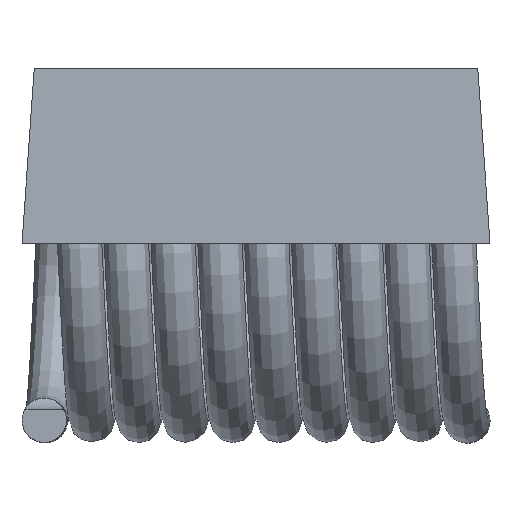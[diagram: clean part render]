
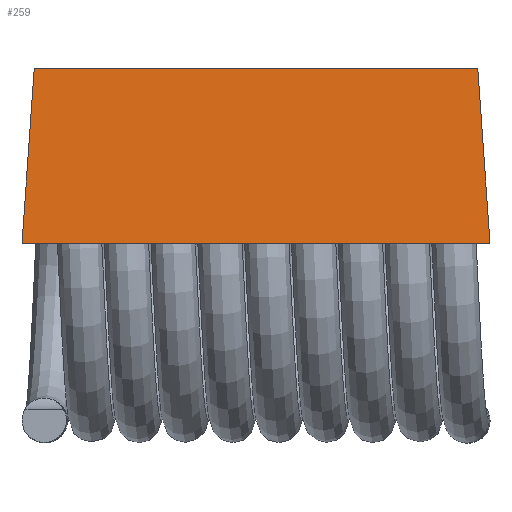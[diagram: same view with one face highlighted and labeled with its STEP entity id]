
A CAD part, top view. The second image highlights one B-rep face of the part: STEP entity #259.
In plain terms, the highlighted planar face has unit normal (0, 0.07, 0.998).
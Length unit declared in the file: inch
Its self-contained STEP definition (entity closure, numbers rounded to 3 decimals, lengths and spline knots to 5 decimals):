
#22 = PLANE ( 'NONE',  #4926 ) ;
#174 = VERTEX_POINT ( 'NONE', #4105 ) ;
#259 = ADVANCED_FACE ( 'NONE', ( #2900 ), #22, .T. ) ;
#328 = DIRECTION ( 'NONE',  ( -1., 0., 0. ) ) ;
#383 = VECTOR ( 'NONE', #3361, 39.37008 ) ;
#424 = CARTESIAN_POINT ( 'NONE',  ( -0.0045, 0.15, 0.0675 ) ) ;
#565 = EDGE_CURVE ( 'NONE', #1722, #174, #4001, .T. ) ;
#621 = ORIENTED_EDGE ( 'NONE', *, *, #4823, .F. ) ;
#771 = DIRECTION ( 'NONE',  ( 0., 0.07, 0.998 ) ) ;
#898 = CARTESIAN_POINT ( 'NONE',  ( 0.17839, 0.08, 0.07239 ) ) ;
#978 = VECTOR ( 'NONE', #5290, 39.37008 ) ;
#1106 = EDGE_LOOP ( 'NONE', ( #621, #3589, #1564, #1117 ) ) ;
#1117 = ORIENTED_EDGE ( 'NONE', *, *, #565, .T. ) ;
#1236 = CARTESIAN_POINT ( 'NONE',  ( 0.1735, 0.15, 0.0675 ) ) ;
#1564 = ORIENTED_EDGE ( 'NONE', *, *, #3228, .T. ) ;
#1722 = VERTEX_POINT ( 'NONE', #2186 ) ;
#1815 = LINE ( 'NONE', #4907, #978 ) ;
#1847 = EDGE_CURVE ( 'NONE', #2220, #3801, #3296, .T. ) ;
#2177 = VECTOR ( 'NONE', #328, 39.37008 ) ;
#2186 = CARTESIAN_POINT ( 'NONE',  ( -0.0045, 0.15, 0.0675 ) ) ;
#2220 = VERTEX_POINT ( 'NONE', #3850 ) ;
#2705 = CARTESIAN_POINT ( 'NONE',  ( -0.0045, 0.08, 0.07239 ) ) ;
#2900 = FACE_OUTER_BOUND ( 'NONE', #1106, .T. ) ;
#3074 = DIRECTION ( 'NONE',  ( -0.07, -0.995, 0.07 ) ) ;
#3228 = EDGE_CURVE ( 'NONE', #3801, #1722, #1815, .T. ) ;
#3296 = LINE ( 'NONE', #898, #383 ) ;
#3361 = DIRECTION ( 'NONE',  ( -0.07, 0.995, -0.07 ) ) ;
#3470 = CARTESIAN_POINT ( 'NONE',  ( -0.0045, 0.15, 0.0675 ) ) ;
#3589 = ORIENTED_EDGE ( 'NONE', *, *, #1847, .T. ) ;
#3801 = VERTEX_POINT ( 'NONE', #1236 ) ;
#3850 = CARTESIAN_POINT ( 'NONE',  ( 0.17839, 0.08, 0.07239 ) ) ;
#4001 = LINE ( 'NONE', #3470, #4267 ) ;
#4084 = DIRECTION ( 'NONE',  ( 0., -0.998, 0.07 ) ) ;
#4105 = CARTESIAN_POINT ( 'NONE',  ( -0.00939, 0.08, 0.07239 ) ) ;
#4267 = VECTOR ( 'NONE', #3074, 39.37008 ) ;
#4823 = EDGE_CURVE ( 'NONE', #2220, #174, #5344, .T. ) ;
#4907 = CARTESIAN_POINT ( 'NONE',  ( -0.0045, 0.15, 0.0675 ) ) ;
#4926 = AXIS2_PLACEMENT_3D ( 'NONE', #424, #771, #4084 ) ;
#5290 = DIRECTION ( 'NONE',  ( -1., 0., 0. ) ) ;
#5344 = LINE ( 'NONE', #2705, #2177 ) ;
